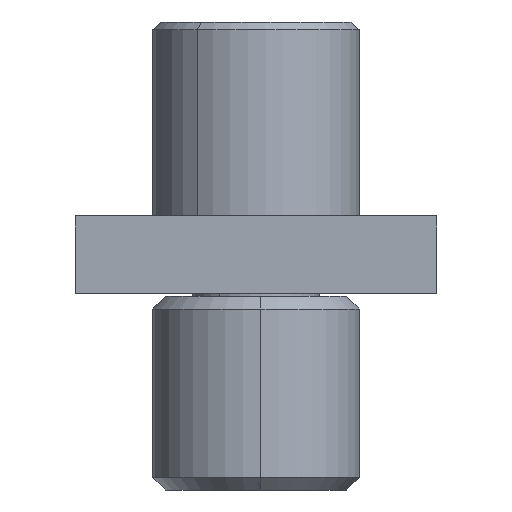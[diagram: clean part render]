
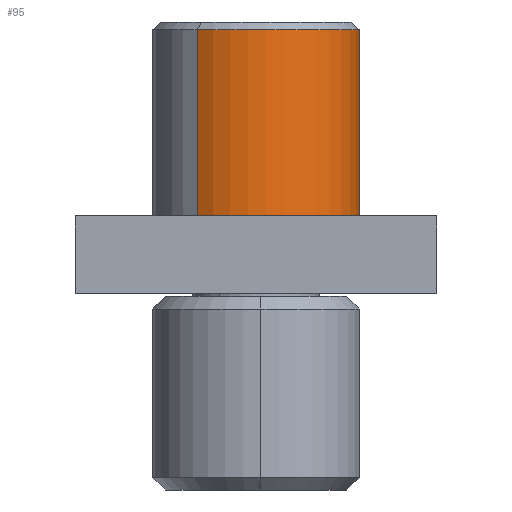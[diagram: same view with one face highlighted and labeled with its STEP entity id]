
A CAD part, left-side view. The second image highlights one B-rep face of the part: STEP entity #95.
In plain terms, the highlighted cylindrical face has radius 4 mm (diameter 8 mm), a partial arc.
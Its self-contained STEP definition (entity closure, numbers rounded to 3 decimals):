
#5 = VERTEX_POINT ( 'NONE', #23 ) ;
#23 = CARTESIAN_POINT ( 'NONE',  ( 0., 4., -7.5 ) ) ;
#41 = DIRECTION ( 'NONE',  ( 0., 1., 0. ) ) ;
#57 = DIRECTION ( 'NONE',  ( 0., 0., -1. ) ) ;
#95 = ADVANCED_FACE ( 'NONE', ( #195 ), #313, .T. ) ;
#195 = FACE_OUTER_BOUND ( 'NONE', #254, .T. ) ;
#211 = CIRCLE ( 'NONE', #1159, 4. ) ;
#254 = EDGE_LOOP ( 'NONE', ( #323, #397, #970, #335 ) ) ;
#294 = EDGE_CURVE ( 'NONE', #912, #5, #1266, .T. ) ;
#313 = CYLINDRICAL_SURFACE ( 'NONE', #442, 4. ) ;
#323 = ORIENTED_EDGE ( 'NONE', *, *, #794, .F. ) ;
#335 = ORIENTED_EDGE ( 'NONE', *, *, #734, .F. ) ;
#397 = ORIENTED_EDGE ( 'NONE', *, *, #571, .T. ) ;
#442 = AXIS2_PLACEMENT_3D ( 'NONE', #1252, #539, #41 ) ;
#448 = CARTESIAN_POINT ( 'NONE',  ( 0., 4., -0.3 ) ) ;
#539 = DIRECTION ( 'NONE',  ( 0., 0., -1. ) ) ;
#541 = CARTESIAN_POINT ( 'NONE',  ( 0., 0., -7.5 ) ) ;
#571 = EDGE_CURVE ( 'NONE', #624, #912, #211, .T. ) ;
#624 = VERTEX_POINT ( 'NONE', #796 ) ;
#733 = DIRECTION ( 'NONE',  ( 0., 1., 0. ) ) ;
#734 = EDGE_CURVE ( 'NONE', #792, #5, #1232, .T. ) ;
#792 = VERTEX_POINT ( 'NONE', #798 ) ;
#794 = EDGE_CURVE ( 'NONE', #624, #792, #1172, .T. ) ;
#796 = CARTESIAN_POINT ( 'NONE',  ( 0., -4., -0.3 ) ) ;
#798 = CARTESIAN_POINT ( 'NONE',  ( 0., -4., -7.5 ) ) ;
#802 = CARTESIAN_POINT ( 'NONE',  ( 0., -4., -18.1 ) ) ;
#804 = DIRECTION ( 'NONE',  ( 0., 1., 0. ) ) ;
#816 = DIRECTION ( 'NONE',  ( 0., 0., -1. ) ) ;
#822 = CARTESIAN_POINT ( 'NONE',  ( 0., 0., -0.3 ) ) ;
#901 = CARTESIAN_POINT ( 'NONE',  ( 0., 4., -18.1 ) ) ;
#912 = VERTEX_POINT ( 'NONE', #448 ) ;
#970 = ORIENTED_EDGE ( 'NONE', *, *, #294, .T. ) ;
#1031 = DIRECTION ( 'NONE',  ( 0., 0., -1. ) ) ;
#1081 = AXIS2_PLACEMENT_3D ( 'NONE', #541, #1183, #733 ) ;
#1155 = VECTOR ( 'NONE', #1031, 1000. ) ;
#1159 = AXIS2_PLACEMENT_3D ( 'NONE', #822, #816, #804 ) ;
#1172 = LINE ( 'NONE', #802, #1155 ) ;
#1183 = DIRECTION ( 'NONE',  ( 0., 0., -1. ) ) ;
#1184 = VECTOR ( 'NONE', #57, 1000. ) ;
#1232 = CIRCLE ( 'NONE', #1081, 4. ) ;
#1252 = CARTESIAN_POINT ( 'NONE',  ( 0., 0., -18.1 ) ) ;
#1266 = LINE ( 'NONE', #901, #1184 ) ;
